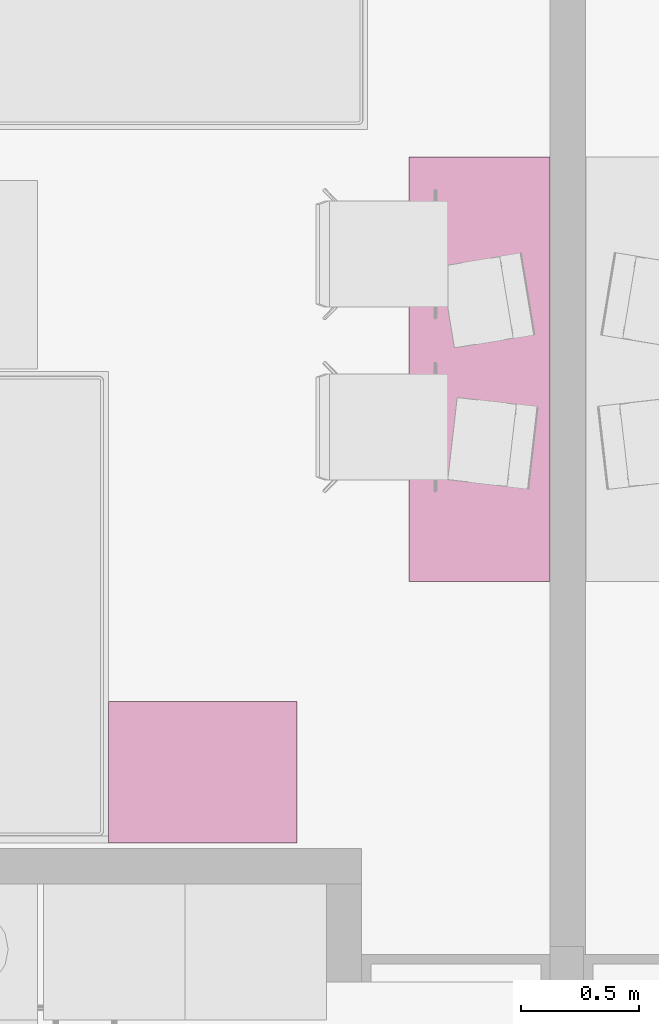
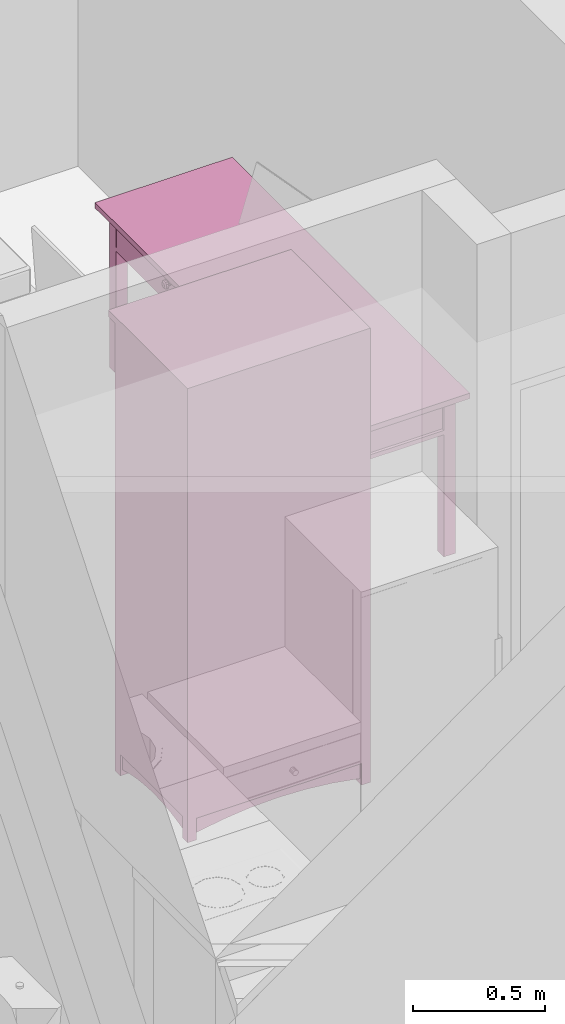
# One storey, part 137 of 165: 2 furnishings.
"""IFC2X3 building model written with IfcOpenShell, lengths in millimetres."""

from ifc_helpers import new_model, entity, si_unit, converted_unit, money_unit, direction, frame, origin_with_axes, place, context, subcontext, project, spatial, faceted_brep, source, transform, mapped, material, material_list, type_object, element, save


model = new_model("IFC2X3")

# Units and contexts
model_context = context("Model", 3, precision=1e-05, world=origin_with_axes(), true_north=direction((0.0, 1.0)))
body_context = subcontext(model_context, "Body", "Model", "MODEL_VIEW")
ifc_project = project(units=[si_unit("LENGTHUNIT", "METRE", prefix="MILLI"), si_unit("AREAUNIT", "SQUARE_METRE"), si_unit("VOLUMEUNIT", "CUBIC_METRE"), converted_unit("PLANEANGLEUNIT", "DEGREE", entity("IfcPlaneAngleMeasure", 0.0174532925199), si_unit("PLANEANGLEUNIT", "RADIAN"), dimensions=[0, 0, 0, 0, 0, 0, 0]), si_unit("SOLIDANGLEUNIT", "STERADIAN"), money_unit("USD"), converted_unit("TIMEUNIT", "Year", entity("IfcTimeMeasure", 31556926.0), si_unit("TIMEUNIT", "SECOND"), dimensions=[0, 0, 0, 0, 0, 0, 0]), si_unit("MASSUNIT", "GRAM"), si_unit("THERMODYNAMICTEMPERATUREUNIT", "DEGREE_CELSIUS"), si_unit("LUMINOUSINTENSITYUNIT", "LUMEN")], contexts=[model_context])

# Site, building, storey
site_placement = place(None, origin_with_axes())
site = spatial("IfcSite", under=ifc_project, at=site_placement, Name="Site", CompositionType="ELEMENT")
building_placement = place(site_placement, origin_with_axes())
building = spatial("IfcBuilding", under=site, at=building_placement, Name="Building", CompositionType="ELEMENT")
storey_placement = place(building_placement, frame((0.0, 0.0, 6300.0), z_axis=(0.0, 0.0, 1.0), x_axis=(1.0, 0.0, 0.0)))
storey = spatial("IfcBuildingStorey", under=building, at=storey_placement, Name="4KORRUS", CompositionType="ELEMENT", Elevation=6300.0)

# Furnishings
ifc_material = material(Name="Background")
ifc_material_list = material_list([ifc_material])
furnishing_element_type_1 = type_object("IfcFurnishingElementType", Name="Cupboard 19")
shared_shape_1 = source(origin_with_axes(), body_context, "Body", "Brep", [
    faceted_brep([(780.0, 600.0, 120.0), (780.0, 600.0, 2050.0), (780.0, 580.0, 2050.0), (780.0, 580.0, 120.0), (20.0, 600.0, 120.0), (20.0, 600.0, 2050.0), (20.0, 580.0, 2050.0), (20.0, 580.0, 120.0)], [[[0, 1, 2, 3]], [[4, 5, 1, 0]], [[1, 5, 6, 2]], [[3, 2, 6, 7]], [[0, 3, 7, 4]], [[7, 6, 5, 4]]]),
    faceted_brep([(0.0, 50.0, 100.0), (0.0, 600.0, 100.0), (20.0, 600.0, 100.0), (20.0, 50.0, 100.0), (0.0, 50.0, 2070.0), (0.0, 600.0, 2070.0), (20.0, 600.0, 2070.0), (20.0, 50.0, 2070.0)], [[[0, 1, 2, 3]], [[0, 4, 5, 1]], [[1, 5, 6, 2]], [[2, 6, 7, 3]], [[3, 7, 4, 0]], [[7, 6, 5, 4]]]),
    faceted_brep([(780.0, 50.0, 100.0), (780.0, 600.0, 100.0), (800.0, 600.0, 100.0), (800.0, 50.0, 100.0), (780.0, 50.0, 2070.0), (780.0, 600.0, 2070.0), (800.0, 600.0, 2070.0), (800.0, 50.0, 2070.0)], [[[0, 1, 2, 3]], [[0, 4, 5, 1]], [[1, 5, 6, 2]], [[2, 6, 7, 3]], [[3, 7, 4, 0]], [[7, 6, 5, 4]]]),
    faceted_brep([(20.0, 50.0, 100.0), (20.0, 600.0, 100.0), (780.0, 600.0, 100.0), (780.0, 50.0, 100.0), (20.0, 50.0, 120.0), (20.0, 600.0, 120.0), (780.0, 600.0, 120.0), (780.0, 50.0, 120.0)], [[[0, 1, 2, 3]], [[0, 4, 5, 1]], [[1, 5, 6, 2]], [[2, 6, 7, 3]], [[3, 7, 4, 0]], [[7, 6, 5, 4]]]),
    faceted_brep([(20.0, 50.0, 2050.0), (20.0, 600.0, 2050.0), (780.0, 600.0, 2050.0), (780.0, 50.0, 2050.0), (20.0, 50.0, 2070.0), (20.0, 600.0, 2070.0), (780.0, 600.0, 2070.0), (780.0, 50.0, 2070.0)], [[[0, 1, 2, 3]], [[0, 4, 5, 1]], [[1, 5, 6, 2]], [[2, 6, 7, 3]], [[3, 7, 4, 0]], [[7, 6, 5, 4]]]),
    faceted_brep([(0.0, 600.0, 2070.0), (0.0, 0.0, 2070.0), (0.0, 0.0, 2100.0), (0.0, 600.0, 2100.0), (800.0, 600.0, 2070.0), (800.0, 0.0, 2070.0), (800.0, 0.0, 2100.0), (800.0, 600.0, 2100.0)], [[[0, 1, 2, 3]], [[0, 4, 5, 1]], [[1, 5, 6, 2]], [[3, 2, 6, 7]], [[4, 0, 3, 7]], [[5, 4, 7, 6]]]),
    faceted_brep([(760.0, 590.0, 25.0), (760.0, 570.0, 25.0), (640.962, 570.0, 45.8), (640.962, 590.0, 45.8), (760.0, 590.0, 100.0), (760.0, 570.0, 100.0), (40.0, 570.0, 100.0), (40.0, 570.0, 25.0), (159.038, 570.0, 45.8), (279.23, 570.0, 58.32), (400.0, 570.0, 62.5), (520.77, 570.0, 58.32), (520.77, 590.0, 58.32), (400.0, 590.0, 62.5), (279.23, 590.0, 58.32), (159.038, 590.0, 45.8), (40.0, 590.0, 25.0), (40.0, 590.0, 100.0)], [[[0, 1, 2, 3]], [[4, 5, 1, 0]], [[1, 5, 6, 7, 8, 9, 10, 11, 2]], [[3, 2, 11, 12]], [[0, 3, 12, 13, 14, 15, 16, 17, 4]], [[17, 6, 5, 4]], [[16, 7, 6, 17]], [[15, 8, 7, 16]], [[14, 9, 8, 15]], [[13, 10, 9, 14]], [[12, 11, 10, 13]]]),
    faceted_brep([(760.0, 80.0, 25.0), (760.0, 60.0, 25.0), (640.962, 60.0, 45.8), (640.962, 80.0, 45.8), (760.0, 80.0, 100.0), (760.0, 60.0, 100.0), (40.0, 60.0, 100.0), (40.0, 60.0, 25.0), (159.038, 60.0, 45.8), (279.23, 60.0, 58.32), (400.0, 60.0, 62.5), (520.77, 60.0, 58.32), (520.77, 80.0, 58.32), (400.0, 80.0, 62.5), (279.23, 80.0, 58.32), (159.038, 80.0, 45.8), (40.0, 80.0, 25.0), (40.0, 80.0, 100.0)], [[[0, 1, 2, 3]], [[4, 5, 1, 0]], [[1, 5, 6, 7, 8, 9, 10, 11, 2]], [[3, 2, 11, 12]], [[0, 3, 12, 13, 14, 15, 16, 17, 4]], [[17, 6, 5, 4]], [[16, 7, 6, 17]], [[15, 8, 7, 16]], [[14, 9, 8, 15]], [[13, 10, 9, 14]], [[12, 11, 10, 13]]]),
    faceted_brep([(790.0, 90.0, 25.0), (770.0, 90.0, 25.0), (770.0, 141.266, 38.072), (790.0, 141.266, 38.072), (790.0, 90.0, 100.0), (770.0, 90.0, 100.0), (770.0, 560.0, 100.0), (770.0, 560.0, 25.0), (770.0, 508.734, 38.072), (770.0, 456.752, 47.92), (770.0, 404.257, 54.508), (770.0, 351.453, 57.808), (770.0, 298.547, 57.808), (770.0, 245.743, 54.508), (770.0, 193.248, 47.92), (790.0, 193.248, 47.92), (790.0, 245.743, 54.508), (790.0, 298.547, 57.808), (790.0, 351.453, 57.808), (790.0, 404.257, 54.508), (790.0, 456.752, 47.92), (790.0, 508.734, 38.072), (790.0, 560.0, 25.0), (790.0, 560.0, 100.0)], [[[0, 1, 2, 3]], [[4, 5, 1, 0]], [[1, 5, 6, 7, 8, 9, 10, 11, 12, 13, 14, 2]], [[3, 2, 14, 15]], [[0, 3, 15, 16, 17, 18, 19, 20, 21, 22, 23, 4]], [[23, 6, 5, 4]], [[22, 7, 6, 23]], [[21, 8, 7, 22]], [[20, 9, 8, 21]], [[19, 10, 9, 20]], [[18, 11, 10, 19]], [[17, 12, 11, 18]], [[16, 13, 12, 17]], [[15, 14, 13, 16]]]),
    faceted_brep([(30.0, 90.0, 25.0), (10.0, 90.0, 25.0), (10.0, 141.266, 38.072), (30.0, 141.266, 38.072), (30.0, 90.0, 100.0), (10.0, 90.0, 100.0), (10.0, 560.0, 100.0), (10.0, 560.0, 25.0), (10.0, 508.734, 38.072), (10.0, 456.752, 47.92), (10.0, 404.257, 54.508), (10.0, 351.453, 57.808), (10.0, 298.547, 57.808), (10.0, 245.743, 54.508), (10.0, 193.248, 47.92), (30.0, 193.248, 47.92), (30.0, 245.743, 54.508), (30.0, 298.547, 57.808), (30.0, 351.453, 57.808), (30.0, 404.257, 54.508), (30.0, 456.752, 47.92), (30.0, 508.734, 38.072), (30.0, 560.0, 25.0), (30.0, 560.0, 100.0)], [[[0, 1, 2, 3]], [[4, 5, 1, 0]], [[1, 5, 6, 7, 8, 9, 10, 11, 12, 13, 14, 2]], [[3, 2, 14, 15]], [[0, 3, 15, 16, 17, 18, 19, 20, 21, 22, 23, 4]], [[23, 6, 5, 4]], [[22, 7, 6, 23]], [[21, 8, 7, 22]], [[20, 9, 8, 21]], [[19, 10, 9, 20]], [[18, 11, 10, 19]], [[17, 12, 11, 18]], [[16, 13, 12, 17]], [[15, 14, 13, 16]]]),
    faceted_brep([(760.0, 560.0, 0.0), (760.0, 560.0, 100.0), (760.0, 600.0, 100.0), (760.0, 600.0, 0.0), (800.0, 560.0, 0.0), (800.0, 560.0, 100.0), (800.0, 600.0, 100.0), (800.0, 600.0, 0.0)], [[[0, 1, 2, 3]], [[4, 5, 1, 0]], [[1, 5, 6, 2]], [[3, 2, 6, 7]], [[0, 3, 7, 4]], [[7, 6, 5, 4]]]),
    faceted_brep([(0.0, 560.0, 0.0), (0.0, 560.0, 100.0), (0.0, 600.0, 100.0), (0.0, 600.0, 0.0), (40.0, 560.0, 0.0), (40.0, 560.0, 100.0), (40.0, 600.0, 100.0), (40.0, 600.0, 0.0)], [[[0, 1, 2, 3]], [[4, 5, 1, 0]], [[1, 5, 6, 2]], [[3, 2, 6, 7]], [[0, 3, 7, 4]], [[7, 6, 5, 4]]]),
    faceted_brep([(760.0, 50.0, 0.0), (760.0, 50.0, 100.0), (760.0, 90.0, 100.0), (760.0, 90.0, 0.0), (800.0, 50.0, 0.0), (800.0, 50.0, 100.0), (800.0, 90.0, 100.0), (800.0, 90.0, 0.0)], [[[0, 1, 2, 3]], [[4, 5, 1, 0]], [[1, 5, 6, 2]], [[3, 2, 6, 7]], [[0, 3, 7, 4]], [[7, 6, 5, 4]]]),
    faceted_brep([(0.0, 50.0, 0.0), (0.0, 50.0, 100.0), (0.0, 90.0, 100.0), (0.0, 90.0, 0.0), (40.0, 50.0, 0.0), (40.0, 50.0, 100.0), (40.0, 90.0, 100.0), (40.0, 90.0, 0.0)], [[[0, 1, 2, 3]], [[4, 5, 1, 0]], [[1, 5, 6, 2]], [[3, 2, 6, 7]], [[0, 3, 7, 4]], [[7, 6, 5, 4]]]),
    faceted_brep([(780.0, 580.0, 587.5), (780.0, 580.0, 607.5), (780.0, 50.0, 607.5), (780.0, 50.0, 587.5), (20.0, 580.0, 587.5), (20.0, 580.0, 607.5), (20.0, 50.0, 607.5), (20.0, 50.0, 587.5)], [[[0, 1, 2, 3]], [[4, 5, 1, 0]], [[1, 5, 6, 2]], [[3, 2, 6, 7]], [[0, 3, 7, 4]], [[7, 6, 5, 4]]]),
    faceted_brep([(780.0, 580.0, 1075.0), (780.0, 580.0, 1095.0), (780.0, 50.0, 1095.0), (780.0, 50.0, 1075.0), (20.0, 580.0, 1075.0), (20.0, 580.0, 1095.0), (20.0, 50.0, 1095.0), (20.0, 50.0, 1075.0)], [[[0, 1, 2, 3]], [[4, 5, 1, 0]], [[1, 5, 6, 2]], [[3, 2, 6, 7]], [[0, 3, 7, 4]], [[7, 6, 5, 4]]]),
    faceted_brep([(780.0, 580.0, 1562.5), (780.0, 580.0, 1582.5), (780.0, 50.0, 1582.5), (780.0, 50.0, 1562.5), (20.0, 580.0, 1562.5), (20.0, 580.0, 1582.5), (20.0, 50.0, 1582.5), (20.0, 50.0, 1562.5)], [[[0, 1, 2, 3]], [[4, 5, 1, 0]], [[1, 5, 6, 2]], [[3, 2, 6, 7]], [[0, 3, 7, 4]], [[7, 6, 5, 4]]]),
    faceted_brep([(789.5, 50.0, 110.5), (400.5, 50.0, 110.5), (400.5, 50.0, 2059.5), (789.5, 50.0, 2059.5), (789.5, 40.0, 110.5), (400.5, 40.0, 110.5), (400.5, 40.0, 2059.5), (789.5, 40.0, 2059.5), (779.5, 30.0, 120.5), (410.5, 30.0, 120.5), (410.5, 30.0, 2049.5), (779.5, 30.0, 2049.5)], [[[0, 1, 2, 3]], [[0, 4, 5, 1]], [[1, 5, 6, 2]], [[2, 6, 7, 3]], [[3, 7, 4, 0]], [[4, 8, 9, 5]], [[5, 9, 10, 6]], [[6, 10, 11, 7]], [[7, 11, 8, 4]], [[10, 9, 8, 11]]]),
    faceted_brep([(399.5, 50.0, 110.5), (10.5, 50.0, 110.5), (10.5, 50.0, 2059.5), (399.5, 50.0, 2059.5), (399.5, 40.0, 110.5), (10.5, 40.0, 110.5), (10.5, 40.0, 2059.5), (399.5, 40.0, 2059.5), (389.5, 30.0, 120.5), (20.5, 30.0, 120.5), (20.5, 30.0, 2049.5), (389.5, 30.0, 2049.5)], [[[0, 1, 2, 3]], [[0, 4, 5, 1]], [[1, 5, 6, 2]], [[2, 6, 7, 3]], [[3, 7, 4, 0]], [[4, 8, 9, 5]], [[5, 9, 10, 6]], [[6, 10, 11, 7]], [[7, 11, 8, 4]], [[10, 9, 8, 11]]]),
    faceted_brep([(339.608, 30.0, 954.0), (338.0, 30.0, 960.0), (339.608, 30.0, 966.0), (344.0, 30.0, 970.392), (350.0, 30.0, 972.0), (356.0, 30.0, 970.392), (360.392, 30.0, 966.0), (362.0, 30.0, 960.0), (360.392, 30.0, 954.0), (356.0, 30.0, 949.608), (350.0, 30.0, 948.0), (344.0, 30.0, 949.608), (339.608, 5.0, 954.0), (338.0, 5.0, 960.0), (339.608, 5.0, 966.0), (344.0, 5.0, 970.392), (350.0, 5.0, 972.0), (356.0, 5.0, 970.392), (360.392, 5.0, 966.0), (362.0, 5.0, 960.0), (360.392, 5.0, 954.0), (356.0, 5.0, 949.608), (350.0, 5.0, 948.0), (344.0, 5.0, 949.608)], [[[0, 1, 2, 3, 4, 5, 6, 7, 8, 9, 10, 11]], [[0, 12, 13, 1]], [[1, 13, 14, 2]], [[2, 14, 15, 3]], [[3, 15, 16, 4]], [[4, 16, 17, 5]], [[5, 17, 18, 6]], [[6, 18, 19, 7]], [[7, 19, 20, 8]], [[8, 20, 21, 9]], [[9, 21, 22, 10]], [[10, 22, 23, 11]], [[11, 23, 12, 0]], [[12, 23, 22, 21, 20, 19, 18, 17, 16, 15, 14, 13]]]),
    faceted_brep([(460.392, 30.0, 954.0), (456.0, 30.0, 949.608), (450.0, 30.0, 948.0), (444.0, 30.0, 949.608), (439.608, 30.0, 954.0), (438.0, 30.0, 960.0), (439.608, 30.0, 966.0), (444.0, 30.0, 970.392), (450.0, 30.0, 972.0), (456.0, 30.0, 970.392), (460.392, 30.0, 966.0), (462.0, 30.0, 960.0), (460.392, 5.0, 954.0), (456.0, 5.0, 949.608), (450.0, 5.0, 948.0), (444.0, 5.0, 949.608), (439.608, 5.0, 954.0), (438.0, 5.0, 960.0), (439.608, 5.0, 966.0), (444.0, 5.0, 970.392), (450.0, 5.0, 972.0), (456.0, 5.0, 970.392), (460.392, 5.0, 966.0), (462.0, 5.0, 960.0)], [[[0, 1, 2, 3, 4, 5, 6, 7, 8, 9, 10, 11]], [[1, 0, 12, 13]], [[2, 1, 13, 14]], [[3, 2, 14, 15]], [[4, 3, 15, 16]], [[5, 4, 16, 17]], [[6, 5, 17, 18]], [[7, 6, 18, 19]], [[8, 7, 19, 20]], [[9, 8, 20, 21]], [[10, 9, 21, 22]], [[11, 10, 22, 23]], [[0, 11, 23, 12]], [[12, 23, 22, 21, 20, 19, 18, 17, 16, 15, 14, 13]]]),
])
furnishing_1_placement = place(storey_placement, frame((7709.70329669, -8616.37850445, 0.0), z_axis=(0.0, 0.0, 1.0), x_axis=(-1.0, 0.0, 0.0)))
element("IfcFurnishingElement", 1, at=furnishing_1_placement, inside=storey, type_object=furnishing_element_type_1, material=ifc_material_list, Name="FU - 014", context=body_context, shape_type="MappedRepresentation", body=[
    mapped(shared_shape_1, transform((0.0, 0.0, 0.0))),
])
furnishing_element_type_2 = type_object("IfcFurnishingElementType", Name="Rectangular Table 01 19")
shared_shape_2 = source(origin_with_axes(), body_context, "Body", "Brep", [
    faceted_brep([(90.0, 40.0, 0.0), (40.0, 40.0, 0.0), (40.0, 90.0, 0.0), (90.0, 90.0, 0.0), (90.0, 40.0, 725.0), (40.0, 40.0, 725.0), (40.0, 90.0, 725.0), (90.0, 90.0, 725.0)], [[[0, 1, 2, 3]], [[1, 0, 4, 5]], [[2, 1, 5, 6]], [[3, 2, 6, 7]], [[0, 3, 7, 4]], [[5, 4, 7, 6]]]),
    faceted_brep([(1760.0, 40.0, 0.0), (1710.0, 40.0, 0.0), (1710.0, 90.0, 0.0), (1760.0, 90.0, 0.0), (1760.0, 40.0, 725.0), (1710.0, 40.0, 725.0), (1710.0, 90.0, 725.0), (1760.0, 90.0, 725.0)], [[[0, 1, 2, 3]], [[1, 0, 4, 5]], [[2, 1, 5, 6]], [[3, 2, 6, 7]], [[0, 3, 7, 4]], [[5, 4, 7, 6]]]),
    faceted_brep([(90.0, 510.0, 0.0), (40.0, 510.0, 0.0), (40.0, 560.0, 0.0), (90.0, 560.0, 0.0), (90.0, 510.0, 725.0), (40.0, 510.0, 725.0), (40.0, 560.0, 725.0), (90.0, 560.0, 725.0)], [[[0, 1, 2, 3]], [[1, 0, 4, 5]], [[2, 1, 5, 6]], [[3, 2, 6, 7]], [[0, 3, 7, 4]], [[5, 4, 7, 6]]]),
    faceted_brep([(1760.0, 510.0, 0.0), (1710.0, 510.0, 0.0), (1710.0, 560.0, 0.0), (1760.0, 560.0, 0.0), (1760.0, 510.0, 725.0), (1710.0, 510.0, 725.0), (1710.0, 560.0, 725.0), (1760.0, 560.0, 725.0)], [[[0, 1, 2, 3]], [[1, 0, 4, 5]], [[2, 1, 5, 6]], [[3, 2, 6, 7]], [[0, 3, 7, 4]], [[5, 4, 7, 6]]]),
    faceted_brep([(1760.0, 40.0, 565.0), (40.0, 40.0, 565.0), (40.0, 560.0, 565.0), (1760.0, 560.0, 565.0), (1760.0, 40.0, 585.0), (40.0, 40.0, 585.0), (40.0, 560.0, 585.0), (1760.0, 560.0, 585.0)], [[[0, 1, 2, 3]], [[1, 0, 4, 5]], [[2, 1, 5, 6]], [[3, 2, 6, 7]], [[0, 3, 7, 4]], [[5, 4, 7, 6]]]),
    faceted_brep([(1710.0, 52.5, 585.0), (90.0, 52.5, 585.0), (90.0, 77.5, 585.0), (1710.0, 77.5, 585.0), (1710.0, 52.5, 745.0), (90.0, 52.5, 745.0), (90.0, 77.5, 745.0), (1710.0, 77.5, 745.0)], [[[0, 1, 2, 3]], [[1, 0, 4, 5]], [[2, 1, 5, 6]], [[3, 2, 6, 7]], [[0, 3, 7, 4]], [[5, 4, 7, 6]]]),
    faceted_brep([(77.5, 90.0, 585.0), (52.5, 90.0, 585.0), (52.5, 510.0, 585.0), (77.5, 510.0, 585.0), (77.5, 90.0, 745.0), (52.5, 90.0, 745.0), (52.5, 510.0, 745.0), (77.5, 510.0, 745.0)], [[[0, 1, 2, 3]], [[1, 0, 4, 5]], [[2, 1, 5, 6]], [[3, 2, 6, 7]], [[0, 3, 7, 4]], [[5, 4, 7, 6]]]),
    faceted_brep([(90.0, 547.5, 585.0), (1710.0, 547.5, 585.0), (1710.0, 522.5, 585.0), (90.0, 522.5, 585.0), (90.0, 547.5, 745.0), (1710.0, 547.5, 745.0), (1710.0, 522.5, 745.0), (90.0, 522.5, 745.0)], [[[0, 1, 2, 3]], [[1, 0, 4, 5]], [[2, 1, 5, 6]], [[3, 2, 6, 7]], [[0, 3, 7, 4]], [[5, 4, 7, 6]]]),
    faceted_brep([(1722.5, 510.0, 585.0), (1747.5, 510.0, 585.0), (1747.5, 90.0, 585.0), (1722.5, 90.0, 585.0), (1722.5, 510.0, 745.0), (1747.5, 510.0, 745.0), (1747.5, 90.0, 745.0), (1722.5, 90.0, 745.0)], [[[0, 1, 2, 3]], [[1, 0, 4, 5]], [[2, 1, 5, 6]], [[3, 2, 6, 7]], [[0, 3, 7, 4]], [[5, 4, 7, 6]]]),
    faceted_brep([(897.5, 40.0, 585.0), (95.0, 40.0, 585.0), (95.0, 60.0, 585.0), (897.5, 60.0, 585.0), (897.5, 40.0, 745.0), (95.0, 40.0, 745.0), (95.0, 60.0, 745.0), (897.5, 60.0, 745.0)], [[[0, 1, 2, 3]], [[1, 0, 4, 5]], [[2, 1, 5, 6]], [[3, 2, 6, 7]], [[0, 3, 7, 4]], [[5, 4, 7, 6]]]),
    faceted_brep([(1705.0, 40.0, 585.0), (902.5, 40.0, 585.0), (902.5, 60.0, 585.0), (1705.0, 60.0, 585.0), (1705.0, 40.0, 745.0), (902.5, 40.0, 745.0), (902.5, 60.0, 745.0), (1705.0, 60.0, 745.0)], [[[0, 1, 2, 3]], [[1, 0, 4, 5]], [[2, 1, 5, 6]], [[3, 2, 6, 7]], [[0, 3, 7, 4]], [[5, 4, 7, 6]]]),
    faceted_brep([(504.91, 40.0, 660.0), (501.25, 40.0, 656.34), (496.25, 40.0, 655.0), (491.25, 40.0, 656.34), (487.59, 40.0, 660.0), (486.25, 40.0, 665.0), (487.59, 40.0, 670.0), (491.25, 40.0, 673.66), (496.25, 40.0, 675.0), (501.25, 40.0, 673.66), (504.91, 40.0, 670.0), (506.25, 40.0, 665.0), (504.91, 25.0, 660.0), (501.25, 25.0, 656.34), (496.25, 25.0, 655.0), (491.25, 25.0, 656.34), (487.59, 25.0, 660.0), (486.25, 25.0, 665.0), (487.59, 25.0, 670.0), (491.25, 25.0, 673.66), (496.25, 25.0, 675.0), (501.25, 25.0, 673.66), (504.91, 25.0, 670.0), (506.25, 25.0, 665.0)], [[[0, 1, 2, 3, 4, 5, 6, 7, 8, 9, 10, 11]], [[1, 0, 12, 13]], [[2, 1, 13, 14]], [[3, 2, 14, 15]], [[4, 3, 15, 16]], [[5, 4, 16, 17]], [[6, 5, 17, 18]], [[7, 6, 18, 19]], [[8, 7, 19, 20]], [[9, 8, 20, 21]], [[10, 9, 21, 22]], [[11, 10, 22, 23]], [[0, 11, 23, 12]], [[12, 23, 22, 21, 20, 19, 18, 17, 16, 15, 14, 13]]]),
    faceted_brep([(506.25, 12.01, 665.0), (496.25, 10.0, 665.0), (504.91, 12.01, 660.0), (504.91, 12.01, 670.0), (501.25, 12.01, 656.34), (513.571, 17.5, 665.0), (511.25, 17.5, 656.34), (501.25, 12.01, 673.66), (511.25, 17.5, 673.66), (496.25, 12.01, 655.0), (504.91, 17.5, 650.0), (516.25, 25.0, 665.0), (513.571, 25.0, 655.0), (496.25, 12.01, 675.0), (504.91, 17.5, 680.0), (513.571, 25.0, 675.0), (491.25, 12.01, 656.34), (496.25, 17.5, 647.679), (506.25, 25.0, 647.679), (496.25, 25.0, 645.0), (486.25, 25.0, 647.679), (478.929, 25.0, 655.0), (476.25, 25.0, 665.0), (478.929, 25.0, 675.0), (486.25, 25.0, 682.321), (496.25, 25.0, 685.0), (506.25, 25.0, 682.321), (491.25, 12.01, 673.66), (496.25, 17.5, 682.321), (487.59, 12.01, 660.0), (487.59, 17.5, 650.0), (481.25, 17.5, 656.34), (478.929, 17.5, 665.0), (481.25, 17.5, 673.66), (487.59, 17.5, 680.0), (487.59, 12.01, 670.0), (486.25, 12.01, 665.0)], [[[0, 1, 2]], [[3, 1, 0]], [[2, 1, 4]], [[5, 0, 2, 6]], [[7, 1, 3]], [[8, 3, 0, 5]], [[4, 1, 9]], [[6, 2, 4, 10]], [[11, 5, 6, 12]], [[13, 1, 7]], [[14, 7, 3, 8]], [[15, 8, 5, 11]], [[9, 1, 16]], [[10, 4, 9, 17]], [[12, 6, 10, 18]], [[12, 18, 19, 20, 21, 22, 23, 24, 25, 26, 15, 11]], [[27, 1, 13]], [[28, 13, 7, 14]], [[26, 14, 8, 15]], [[16, 1, 29]], [[17, 9, 16, 30]], [[18, 10, 17, 19]], [[19, 17, 30, 20]], [[20, 30, 31, 21]], [[21, 31, 32, 22]], [[22, 32, 33, 23]], [[23, 33, 34, 24]], [[24, 34, 28, 25]], [[25, 28, 14, 26]], [[35, 1, 27]], [[34, 27, 13, 28]], [[29, 1, 36]], [[30, 16, 29, 31]], [[31, 29, 36, 32]], [[32, 36, 35, 33]], [[33, 35, 27, 34]], [[36, 1, 35]]]),
    faceted_brep([(1312.41, 40.0, 660.0), (1308.75, 40.0, 656.34), (1303.75, 40.0, 655.0), (1298.75, 40.0, 656.34), (1295.09, 40.0, 660.0), (1293.75, 40.0, 665.0), (1295.09, 40.0, 670.0), (1298.75, 40.0, 673.66), (1303.75, 40.0, 675.0), (1308.75, 40.0, 673.66), (1312.41, 40.0, 670.0), (1313.75, 40.0, 665.0), (1312.41, 25.0, 660.0), (1308.75, 25.0, 656.34), (1303.75, 25.0, 655.0), (1298.75, 25.0, 656.34), (1295.09, 25.0, 660.0), (1293.75, 25.0, 665.0), (1295.09, 25.0, 670.0), (1298.75, 25.0, 673.66), (1303.75, 25.0, 675.0), (1308.75, 25.0, 673.66), (1312.41, 25.0, 670.0), (1313.75, 25.0, 665.0)], [[[0, 1, 2, 3, 4, 5, 6, 7, 8, 9, 10, 11]], [[1, 0, 12, 13]], [[2, 1, 13, 14]], [[3, 2, 14, 15]], [[4, 3, 15, 16]], [[5, 4, 16, 17]], [[6, 5, 17, 18]], [[7, 6, 18, 19]], [[8, 7, 19, 20]], [[9, 8, 20, 21]], [[10, 9, 21, 22]], [[11, 10, 22, 23]], [[0, 11, 23, 12]], [[12, 23, 22, 21, 20, 19, 18, 17, 16, 15, 14, 13]]]),
    faceted_brep([(1313.75, 12.01, 665.0), (1303.75, 10.0, 665.0), (1312.41, 12.01, 660.0), (1312.41, 12.01, 670.0), (1308.75, 12.01, 656.34), (1321.071, 17.5, 665.0), (1318.75, 17.5, 656.34), (1308.75, 12.01, 673.66), (1318.75, 17.5, 673.66), (1303.75, 12.01, 655.0), (1312.41, 17.5, 650.0), (1323.75, 25.0, 665.0), (1321.071, 25.0, 655.0), (1303.75, 12.01, 675.0), (1312.41, 17.5, 680.0), (1321.071, 25.0, 675.0), (1298.75, 12.01, 656.34), (1303.75, 17.5, 647.679), (1313.75, 25.0, 647.679), (1303.75, 25.0, 645.0), (1293.75, 25.0, 647.679), (1286.429, 25.0, 655.0), (1283.75, 25.0, 665.0), (1286.429, 25.0, 675.0), (1293.75, 25.0, 682.321), (1303.75, 25.0, 685.0), (1313.75, 25.0, 682.321), (1298.75, 12.01, 673.66), (1303.75, 17.5, 682.321), (1295.09, 12.01, 660.0), (1295.09, 17.5, 650.0), (1288.75, 17.5, 656.34), (1286.429, 17.5, 665.0), (1288.75, 17.5, 673.66), (1295.09, 17.5, 680.0), (1295.09, 12.01, 670.0), (1293.75, 12.01, 665.0)], [[[0, 1, 2]], [[3, 1, 0]], [[2, 1, 4]], [[5, 0, 2, 6]], [[7, 1, 3]], [[8, 3, 0, 5]], [[4, 1, 9]], [[6, 2, 4, 10]], [[11, 5, 6, 12]], [[13, 1, 7]], [[14, 7, 3, 8]], [[15, 8, 5, 11]], [[9, 1, 16]], [[10, 4, 9, 17]], [[12, 6, 10, 18]], [[12, 18, 19, 20, 21, 22, 23, 24, 25, 26, 15, 11]], [[27, 1, 13]], [[28, 13, 7, 14]], [[26, 14, 8, 15]], [[16, 1, 29]], [[17, 9, 16, 30]], [[18, 10, 17, 19]], [[19, 17, 30, 20]], [[20, 30, 31, 21]], [[21, 31, 32, 22]], [[22, 32, 33, 23]], [[23, 33, 34, 24]], [[24, 34, 28, 25]], [[25, 28, 14, 26]], [[35, 1, 27]], [[34, 27, 13, 28]], [[29, 1, 36]], [[30, 16, 29, 31]], [[31, 29, 36, 32]], [[32, 36, 35, 33]], [[33, 35, 27, 34]], [[36, 1, 35]]]),
    faceted_brep([(1800.0, 0.0, 725.0), (0.0, 0.0, 725.0), (0.0, 600.0, 725.0), (1800.0, 600.0, 725.0), (1800.0, 0.0, 750.0), (0.0, 0.0, 750.0), (0.0, 600.0, 750.0), (1800.0, 600.0, 750.0)], [[[0, 1, 2, 3]], [[1, 0, 4, 5]], [[2, 1, 5, 6]], [[3, 2, 6, 7]], [[0, 3, 7, 4]], [[5, 4, 7, 6]]]),
])
furnishing_2_placement = place(storey_placement, frame((8184.2564771, -6307.26959818, 0.0), z_axis=(0.0, 0.0, 1.0), x_axis=(0.0, -1.0, 0.0)))
element("IfcFurnishingElement", 2, at=furnishing_2_placement, inside=storey, type_object=furnishing_element_type_2, material=ifc_material_list, Name="FU - 011", context=body_context, shape_type="MappedRepresentation", body=[
    mapped(shared_shape_2, transform((0.0, 0.0, 0.0))),
])

save(model, "model.ifc")
